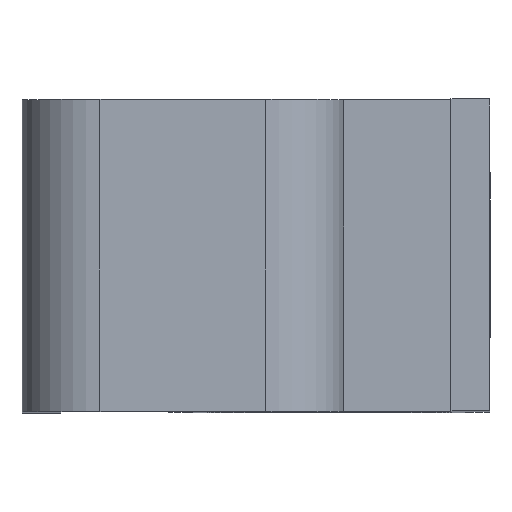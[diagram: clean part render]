
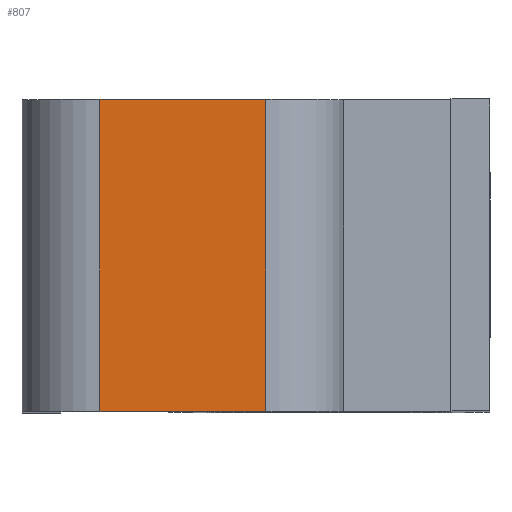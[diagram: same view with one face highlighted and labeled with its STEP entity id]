
A CAD part, top view. The second image highlights one B-rep face of the part: STEP entity #807.
In plain terms, the highlighted planar face has unit normal (0, 0, 1).
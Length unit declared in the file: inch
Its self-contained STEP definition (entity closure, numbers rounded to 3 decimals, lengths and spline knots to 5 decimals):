
#36=PLANE('',#873);
#101=LINE('',#1260,#183);
#104=LINE('',#1272,#186);
#105=LINE('',#1274,#187);
#106=LINE('',#1275,#188);
#183=VECTOR('',#1040,1.);
#186=VECTOR('',#1051,0.53125);
#187=VECTOR('',#1052,1.);
#188=VECTOR('',#1053,0.53125);
#246=FACE_OUTER_BOUND('',#292,.T.);
#292=EDGE_LOOP('',(#654,#655,#656,#657));
#378=VERTEX_POINT('',#1253);
#381=VERTEX_POINT('',#1258);
#386=VERTEX_POINT('',#1271);
#387=VERTEX_POINT('',#1273);
#475=EDGE_CURVE('',#378,#381,#101,.T.);
#480=EDGE_CURVE('',#381,#386,#104,.T.);
#481=EDGE_CURVE('',#386,#387,#105,.T.);
#482=EDGE_CURVE('',#387,#378,#106,.T.);
#654=ORIENTED_EDGE('',*,*,#475,.T.);
#655=ORIENTED_EDGE('',*,*,#480,.T.);
#656=ORIENTED_EDGE('',*,*,#481,.T.);
#657=ORIENTED_EDGE('',*,*,#482,.T.);
#807=ADVANCED_FACE('',(#246),#36,.F.);
#873=AXIS2_PLACEMENT_3D('',#1270,#1049,#1050);
#1040=DIRECTION('',(0.,-1.,0.));
#1049=DIRECTION('center_axis',(0.,0.,
-1.));
#1050=DIRECTION('ref_axis',(-1.,0.,0.));
#1051=DIRECTION('',(1.,0.,0.));
#1052=DIRECTION('',(0.,1.,0.));
#1053=DIRECTION('',(-1.,0.,0.));
#1253=CARTESIAN_POINT('',(-1.25,0.5,-0.87504));
#1258=CARTESIAN_POINT('',(-1.25,-0.5,-0.87504));
#1260=CARTESIAN_POINT('',(-1.25,0.25,-0.87504));
#1270=CARTESIAN_POINT('Origin',(-1.64061,0.,
-0.87504));
#1271=CARTESIAN_POINT('',(-0.71875,-0.5,-0.87504));
#1272=CARTESIAN_POINT('',(-4.15771,-0.5,-0.87504));
#1273=CARTESIAN_POINT('',(-0.71875,0.5,-0.87504));
#1274=CARTESIAN_POINT('',(-0.71875,-0.25,-0.87504));
#1275=CARTESIAN_POINT('',(0.87649,0.5,-0.87504));
